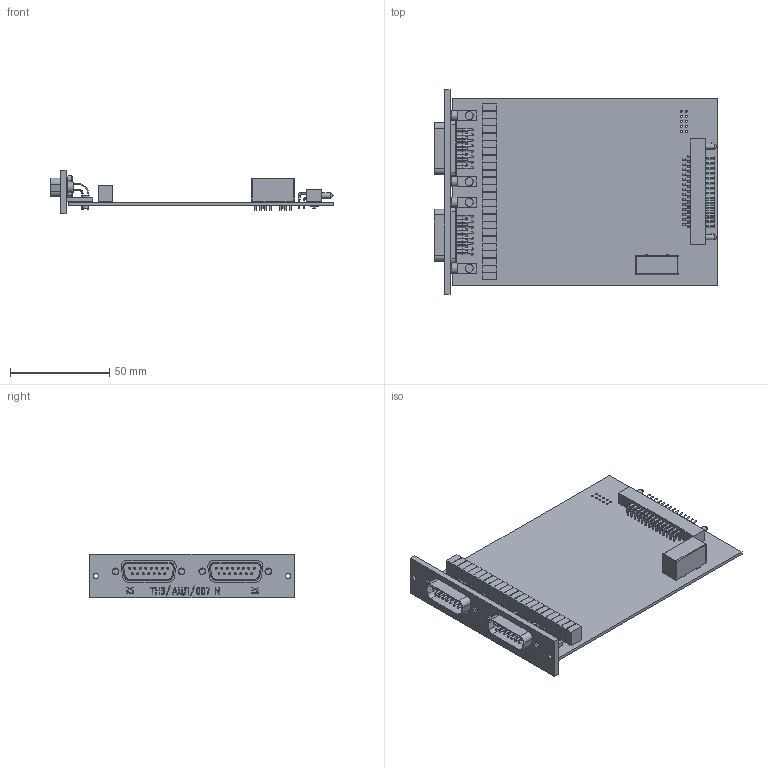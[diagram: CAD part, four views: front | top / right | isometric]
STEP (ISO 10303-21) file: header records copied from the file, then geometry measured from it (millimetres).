
FILE_DESCRIPTION(('STEP AP203'), '1');
FILE_NAME('帎迗.468155.007 沓劌錪 眝3_氈柉007', '', ('UNSPECIFIED'), ('UNSPECIFIED'), 'C3D Converter', 'C3D Toolkit', '');
FILE_SCHEMA(('CONFIG_CONTROL_DESIGN'));
Length unit declared in the file: millimetre
Products named in the file (1): КМНТ.468155.007
Bounding box: 143.22 x 103 x 21.7 mm (x, y, z)
Volume: 29845.9 mm3; surface area: 47244.9 mm2
Topology: 25 solids, 26 shells, 1965 faces, 5159 edges, 3299 vertices
Faces by surface type: plane 896, cylinder 882, torus 67, sphere 60, revolution 58, cone 2
Full cylindrical faces by diameter (mm): 0.6 x163, 0.8 x77, 1 x129, 1.1 x7, 1.4 x2, 1.6 x2, 2.459 x2, 2.49 x2, 2.5 x2, 2.7 x2, 3 x8, 3.1 x4, 3.4 x4, 3.5 x4, 4 x4, 5 x4
Entity records: 80287 total; most frequent: CARTESIAN_POINT 16558, DIRECTION 10230, ORIENTED_EDGE 8960, EDGE_CURVE 4480, AXIS2_PLACEMENT_3D 3913, VERTEX_POINT 3302, EDGE_LOOP 2980, LINE 2346
